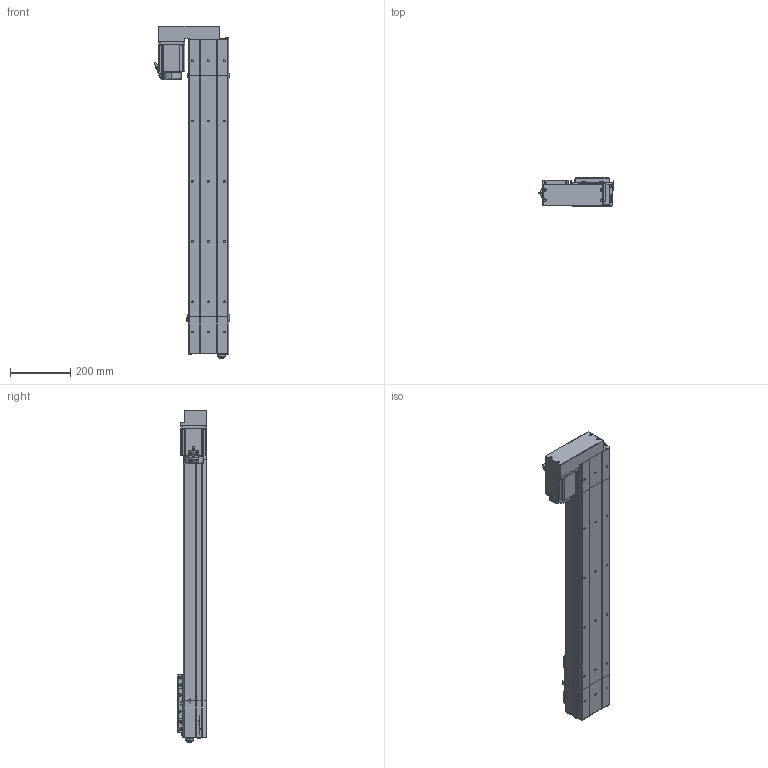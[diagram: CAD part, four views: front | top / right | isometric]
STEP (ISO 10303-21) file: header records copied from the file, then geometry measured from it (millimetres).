
FILE_DESCRIPTION (( 'STEP AP214' ), '1' );
FILE_NAME ('D14 CSH BR S800.STEP', '2010-06-29T15:19:04', ( 'Conseil Régional Haute-Normandie' ), ( 'Conseil Régional Haute-Normandie' ), 'SwSTEP 2.0', 'SolidWorks 2010', '' );
FILE_SCHEMA (( 'AUTOMOTIVE_DESIGN' ));
Length unit declared in the file: millimetre
Products named in the file (26): plaque de bout tail d14; Vis CHC M8; plaque de maintient D14; couvercle tail; vis CHC M7; chariot D14; vis CHC M5; charriot inférieur D14; chariot supérieur D14; couvercle head d14; vis CHC M5.5; Conecteur_Default; Conecteur2_Default; corps tail d14; Tail D14; plaque de bout head d14 BR; Head D14  CSH BR; codeur GMB 90 100 310; corps GMB 90 100 310; couvercle CSH course S800; corps head d14; D14 CSH BR S800; corps  CSH 800; GMB 90 100 310; course CSH S800; avant GMB 90 100 310
Assembly tree (48 placements, depth 4):
  D14 CSH BR S800
    Head D14  CSH BR
      vis CHC M7  x2
      Vis CHC M8  x2
      GMB 90 100 310
        Conecteur_Default
        avant GMB 90 100 310
        corps GMB 90 100 310
        Conecteur2_Default
        codeur GMB 90 100 310
      couvercle head d14
      plaque de bout head d14 BR
      plaque de maintient D14
      vis CHC M5.5  x4
      corps head d14
    chariot D14
      vis CHC M5  x4
      vis CHC M7  x8
      charriot inférieur D14
      chariot supérieur D14
    course CSH S800
      corps  CSH 800
      couvercle CSH course S800
    Tail D14
      vis CHC M7  x4
      Vis CHC M8  x2
      plaque de bout tail d14
      couvercle tail
      corps tail d14
      plaque de maintient D14
Bounding box: 250.75 x 95.75 x 1101.3 mm (x, y, z)
Volume: 4269946 mm3; surface area: 1208793.2 mm2
Topology: 49 solids, 49 shells, 2444 faces, 6287 edges, 4142 vertices
Faces by surface type: plane 1375, bspline 538, cylinder 418, torus 61, cone 52
Entity records: 107552 total; most frequent: CARTESIAN_POINT 57987, ORIENTED_EDGE 10826, DIRECTION 8096, EDGE_CURVE 5413, LINE 3642, VECTOR 3642, VERTEX_POINT 3590, EDGE_LOOP 2311
